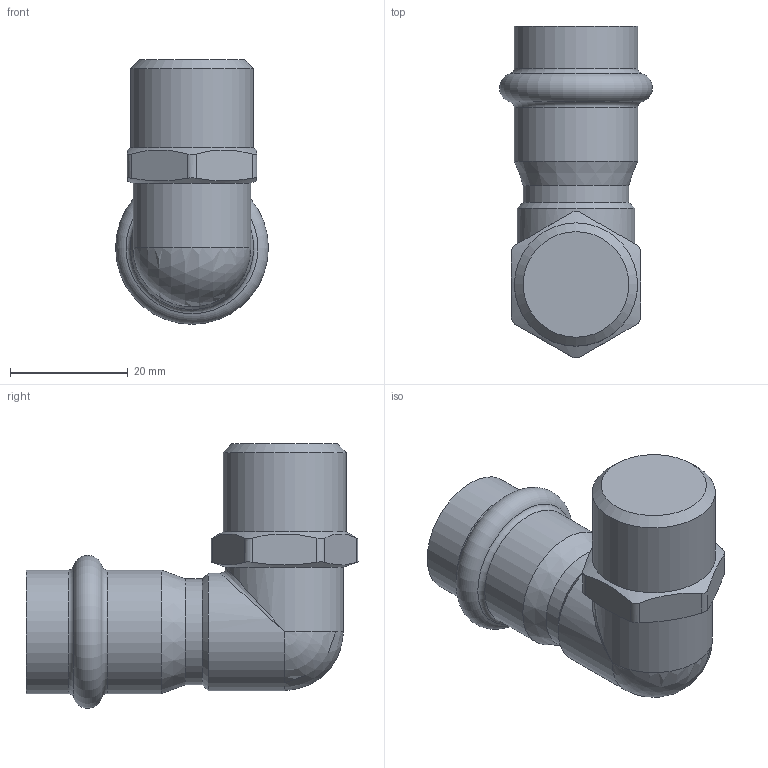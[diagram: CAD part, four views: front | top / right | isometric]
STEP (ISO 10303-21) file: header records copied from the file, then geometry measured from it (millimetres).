
FILE_DESCRIPTION(('STEP AP203'), '1');
FILE_NAME('VTi.953.I.001804', '', ('UNSPECIFIED'), ('UNSPECIFIED'), 'C3D Converter', 'C3D Toolkit', '');
FILE_SCHEMA(('CONFIG_CONTROL_DESIGN'));
Length unit declared in the file: millimetre
Bounding box: 26 x 56.47 x 45 mm (x, y, z)
Volume: 25755.4 mm3; surface area: 5854.1 mm2
Topology: 1 solids, 1 shells, 30 faces, 75 edges, 43 vertices
Faces by surface type: cylinder 12, plane 8, cone 5, torus 3, bspline 1, sphere 1
Full cylindrical faces by diameter (mm): 18 x1, 20 x2, 20.955 x1, 21 x2
Entity records: 1829 total; most frequent: CARTESIAN_POINT 1200, ORIENTED_EDGE 116, DIRECTION 106, EDGE_CURVE 58, AXIS2_PLACEMENT_3D 47, EDGE_LOOP 43, VERTEX_POINT 43, ADVANCED_FACE 30
